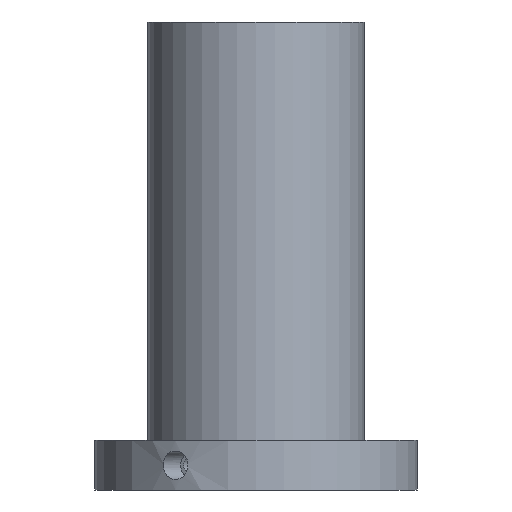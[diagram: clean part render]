
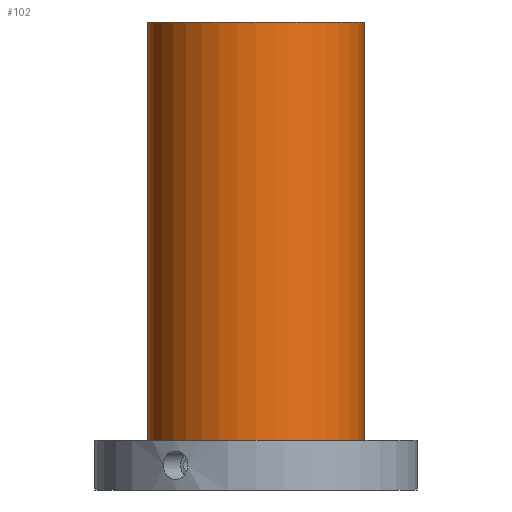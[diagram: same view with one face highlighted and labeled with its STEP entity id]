
A CAD part, front view. The second image highlights one B-rep face of the part: STEP entity #102.
In plain terms, the highlighted cylindrical face has radius 30.5 mm (diameter 61 mm), a full revolution.
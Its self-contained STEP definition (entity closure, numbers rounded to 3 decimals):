
#102=ADVANCED_FACE('',(#136,#137),#119,.T.);
#119=CYLINDRICAL_SURFACE('',#371,30.5);
#136=FACE_BOUND('',#188,.T.);
#137=FACE_BOUND('',#189,.T.);
#188=EDGE_LOOP('',(#240));
#189=EDGE_LOOP('',(#241));
#240=ORIENTED_EDGE('',*,*,#318,.F.);
#241=ORIENTED_EDGE('',*,*,#319,.T.);
#292=VERTEX_POINT('',#557);
#293=VERTEX_POINT('',#559);
#318=EDGE_CURVE('',#292,#292,#343,.T.);
#319=EDGE_CURVE('',#293,#293,#344,.T.);
#343=CIRCLE('',#369,30.5);
#344=CIRCLE('',#370,30.5);
#369=AXIS2_PLACEMENT_3D('',#556,#415,#416);
#370=AXIS2_PLACEMENT_3D('',#558,#417,#418);
#371=AXIS2_PLACEMENT_3D('',#560,#419,#420);
#415=DIRECTION('',(0.,0.,-1.));
#416=DIRECTION('',(1.,0.,0.));
#417=DIRECTION('',(0.,0.,-1.));
#418=DIRECTION('',(1.,0.,0.));
#419=DIRECTION('',(0.,0.,-1.));
#420=DIRECTION('',(-1.,0.,0.));
#556=CARTESIAN_POINT('',(0.,0.,14.));
#557=CARTESIAN_POINT('',(30.5,0.,14.));
#558=CARTESIAN_POINT('',(0.,0.,132.));
#559=CARTESIAN_POINT('',(30.5,0.,132.));
#560=CARTESIAN_POINT('',(0.,0.,132.));
